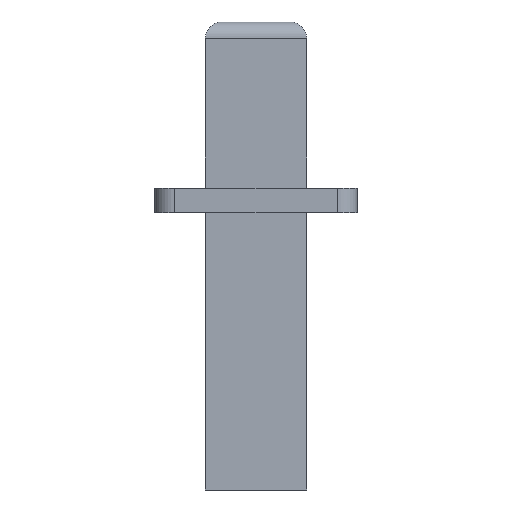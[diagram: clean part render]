
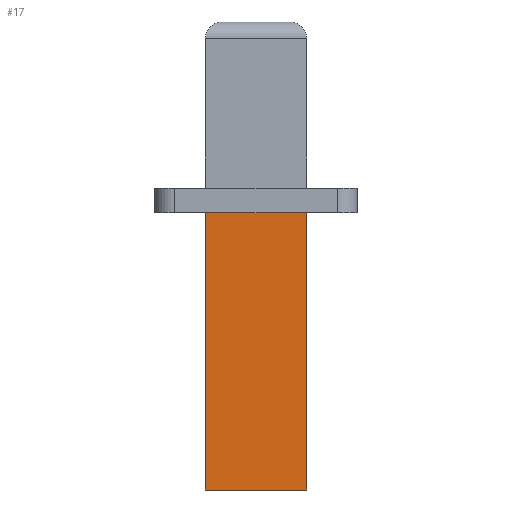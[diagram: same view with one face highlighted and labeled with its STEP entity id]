
A CAD part, left-side view. The second image highlights one B-rep face of the part: STEP entity #17.
In plain terms, the highlighted planar face has unit normal (-1, 0, 0).
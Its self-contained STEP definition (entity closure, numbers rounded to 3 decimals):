
#17 = ADVANCED_FACE('',(#18),#32,.F.);
#18 = FACE_BOUND('',#19,.F.);
#19 = EDGE_LOOP('',(#20,#55,#83,#111));
#20 = ORIENTED_EDGE('',*,*,#21,.F.);
#21 = EDGE_CURVE('',#22,#24,#26,.T.);
#22 = VERTEX_POINT('',#23);
#23 = CARTESIAN_POINT('',(183.1,-57.5,5.51));
#24 = VERTEX_POINT('',#25);
#25 = CARTESIAN_POINT('',(183.1,-57.5,19.2));
#26 = SURFACE_CURVE('',#27,(#31,#43),.PCURVE_S1.);
#27 = LINE('',#28,#29);
#28 = CARTESIAN_POINT('',(183.1,-57.5,5.51));
#29 = VECTOR('',#30,1.);
#30 = DIRECTION('',(0.,0.,1.));
#31 = PCURVE('',#32,#37);
#32 = PLANE('',#33);
#33 = AXIS2_PLACEMENT_3D('',#34,#35,#36);
#34 = CARTESIAN_POINT('',(183.1,-57.5,5.51));
#35 = DIRECTION('',(1.,0.,0.));
#36 = DIRECTION('',(0.,0.,1.));
#37 = DEFINITIONAL_REPRESENTATION('',(#38),#42);
#38 = LINE('',#39,#40);
#39 = CARTESIAN_POINT('',(0.,0.));
#40 = VECTOR('',#41,1.);
#41 = DIRECTION('',(1.,0.));
#42 = ( GEOMETRIC_REPRESENTATION_CONTEXT(2) 
PARAMETRIC_REPRESENTATION_CONTEXT() REPRESENTATION_CONTEXT('2D SPACE',''
  ) );
#43 = PCURVE('',#44,#49);
#44 = PLANE('',#45);
#45 = AXIS2_PLACEMENT_3D('',#46,#47,#48);
#46 = CARTESIAN_POINT('',(183.1,-57.5,5.51));
#47 = DIRECTION('',(0.,1.,0.));
#48 = DIRECTION('',(0.,0.,1.));
#49 = DEFINITIONAL_REPRESENTATION('',(#50),#54);
#50 = LINE('',#51,#52);
#51 = CARTESIAN_POINT('',(0.,0.));
#52 = VECTOR('',#53,1.);
#53 = DIRECTION('',(1.,0.));
#54 = ( GEOMETRIC_REPRESENTATION_CONTEXT(2) 
PARAMETRIC_REPRESENTATION_CONTEXT() REPRESENTATION_CONTEXT('2D SPACE',''
  ) );
#55 = ORIENTED_EDGE('',*,*,#56,.T.);
#56 = EDGE_CURVE('',#22,#57,#59,.T.);
#57 = VERTEX_POINT('',#58);
#58 = CARTESIAN_POINT('',(183.1,-52.5,5.51));
#59 = SURFACE_CURVE('',#60,(#64,#71),.PCURVE_S1.);
#60 = LINE('',#61,#62);
#61 = CARTESIAN_POINT('',(183.1,-57.5,5.51));
#62 = VECTOR('',#63,1.);
#63 = DIRECTION('',(0.,1.,0.));
#64 = PCURVE('',#32,#65);
#65 = DEFINITIONAL_REPRESENTATION('',(#66),#70);
#66 = LINE('',#67,#68);
#67 = CARTESIAN_POINT('',(0.,0.));
#68 = VECTOR('',#69,1.);
#69 = DIRECTION('',(0.,-1.));
#70 = ( GEOMETRIC_REPRESENTATION_CONTEXT(2) 
PARAMETRIC_REPRESENTATION_CONTEXT() REPRESENTATION_CONTEXT('2D SPACE',''
  ) );
#71 = PCURVE('',#72,#77);
#72 = PLANE('',#73);
#73 = AXIS2_PLACEMENT_3D('',#74,#75,#76);
#74 = CARTESIAN_POINT('',(183.1,-57.5,5.51));
#75 = DIRECTION('',(0.,0.,1.));
#76 = DIRECTION('',(1.,0.,0.));
#77 = DEFINITIONAL_REPRESENTATION('',(#78),#82);
#78 = LINE('',#79,#80);
#79 = CARTESIAN_POINT('',(0.,0.));
#80 = VECTOR('',#81,1.);
#81 = DIRECTION('',(0.,1.));
#82 = ( GEOMETRIC_REPRESENTATION_CONTEXT(2) 
PARAMETRIC_REPRESENTATION_CONTEXT() REPRESENTATION_CONTEXT('2D SPACE',''
  ) );
#83 = ORIENTED_EDGE('',*,*,#84,.T.);
#84 = EDGE_CURVE('',#57,#85,#87,.T.);
#85 = VERTEX_POINT('',#86);
#86 = CARTESIAN_POINT('',(183.1,-52.5,19.2));
#87 = SURFACE_CURVE('',#88,(#92,#99),.PCURVE_S1.);
#88 = LINE('',#89,#90);
#89 = CARTESIAN_POINT('',(183.1,-52.5,5.51));
#90 = VECTOR('',#91,1.);
#91 = DIRECTION('',(0.,0.,1.));
#92 = PCURVE('',#32,#93);
#93 = DEFINITIONAL_REPRESENTATION('',(#94),#98);
#94 = LINE('',#95,#96);
#95 = CARTESIAN_POINT('',(0.,-5.));
#96 = VECTOR('',#97,1.);
#97 = DIRECTION('',(1.,0.));
#98 = ( GEOMETRIC_REPRESENTATION_CONTEXT(2) 
PARAMETRIC_REPRESENTATION_CONTEXT() REPRESENTATION_CONTEXT('2D SPACE',''
  ) );
#99 = PCURVE('',#100,#105);
#100 = PLANE('',#101);
#101 = AXIS2_PLACEMENT_3D('',#102,#103,#104);
#102 = CARTESIAN_POINT('',(183.1,-52.5,5.51));
#103 = DIRECTION('',(0.,1.,0.));
#104 = DIRECTION('',(0.,0.,1.));
#105 = DEFINITIONAL_REPRESENTATION('',(#106),#110);
#106 = LINE('',#107,#108);
#107 = CARTESIAN_POINT('',(0.,0.));
#108 = VECTOR('',#109,1.);
#109 = DIRECTION('',(1.,0.));
#110 = ( GEOMETRIC_REPRESENTATION_CONTEXT(2) 
PARAMETRIC_REPRESENTATION_CONTEXT() REPRESENTATION_CONTEXT('2D SPACE',''
  ) );
#111 = ORIENTED_EDGE('',*,*,#112,.T.);
#112 = EDGE_CURVE('',#85,#24,#113,.T.);
#113 = SURFACE_CURVE('',#114,(#118,#124),.PCURVE_S1.);
#114 = LINE('',#115,#116);
#115 = CARTESIAN_POINT('',(183.1,-58.75,19.2));
#116 = VECTOR('',#117,1.);
#117 = DIRECTION('',(0.,-1.,0.));
#118 = PCURVE('',#32,#119);
#119 = DEFINITIONAL_REPRESENTATION('',(#120),#123);
#120 = B_SPLINE_CURVE_WITH_KNOTS('',1,(#121,#122),.UNSPECIFIED.,.F.,.F.,
  (2,2),(-6.25,-1.25),.PIECEWISE_BEZIER_KNOTS.);
#121 = CARTESIAN_POINT('',(13.69,-5.));
#122 = CARTESIAN_POINT('',(13.69,0.));
#123 = ( GEOMETRIC_REPRESENTATION_CONTEXT(2) 
PARAMETRIC_REPRESENTATION_CONTEXT() REPRESENTATION_CONTEXT('2D SPACE',''
  ) );
#124 = PCURVE('',#125,#130);
#125 = PLANE('',#126);
#126 = AXIS2_PLACEMENT_3D('',#127,#128,#129);
#127 = CARTESIAN_POINT('',(181.1,-60.,19.2));
#128 = DIRECTION('',(0.,0.,1.));
#129 = DIRECTION('',(1.,0.,0.));
#130 = DEFINITIONAL_REPRESENTATION('',(#131),#134);
#131 = B_SPLINE_CURVE_WITH_KNOTS('',1,(#132,#133),.UNSPECIFIED.,.F.,.F.,
  (2,2),(-6.25,-1.25),.PIECEWISE_BEZIER_KNOTS.);
#132 = CARTESIAN_POINT('',(2.,7.5));
#133 = CARTESIAN_POINT('',(2.,2.5));
#134 = ( GEOMETRIC_REPRESENTATION_CONTEXT(2) 
PARAMETRIC_REPRESENTATION_CONTEXT() REPRESENTATION_CONTEXT('2D SPACE',''
  ) );
